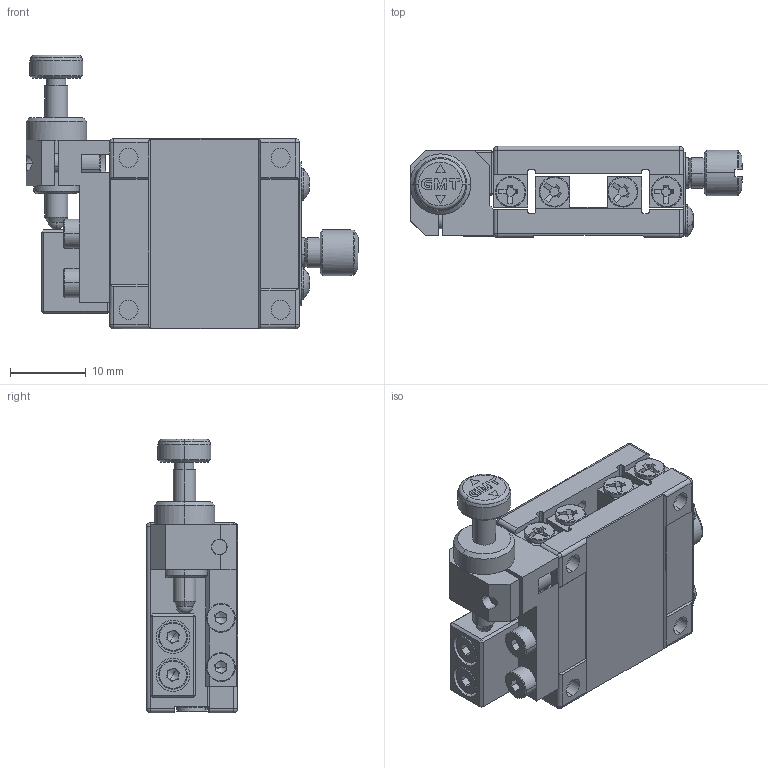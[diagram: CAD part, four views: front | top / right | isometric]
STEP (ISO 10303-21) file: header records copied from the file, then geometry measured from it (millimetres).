
FILE_DESCRIPTION (( 'STEP AP203' ), '1' );
FILE_NAME ('MX25-SS-28(«¬¿ý).STEP', '2013-05-15T07:55:35', ( '123' ), ( '' ), 'SwSTEP 2.0', 'SolidWorks 2013', '' );
FILE_SCHEMA (( 'CONFIG_CONTROL_DESIGN' ));
Length unit declared in the file: millimetre
Products named in the file (3): Group1^MX25-SS-28(型錄); Group2^MX25-SS-28(型錄); MX25-SS-28(型錄)
Assembly tree (2 placements, depth 2):
  MX25-SS-28(型錄)
    Group1^MX25-SS-28(型錄)
    Group2^MX25-SS-28(型錄)
Bounding box: 43.7 x 12 x 36 mm (x, y, z)
Volume: 8073.8 mm3; surface area: 6722.3 mm2
Topology: 2 solids, 2 shells, 1251 faces, 3304 edges, 2129 vertices
Faces by surface type: plane 745, cylinder 182, bspline 159, cone 103, torus 48, sphere 14
Entity records: 46248 total; most frequent: CARTESIAN_POINT 15954, ORIENTED_EDGE 6568, DIRECTION 5655, EDGE_CURVE 3284, LINE 2131, VECTOR 2131, VERTEX_POINT 2129, AXIS2_PLACEMENT_3D 1762
